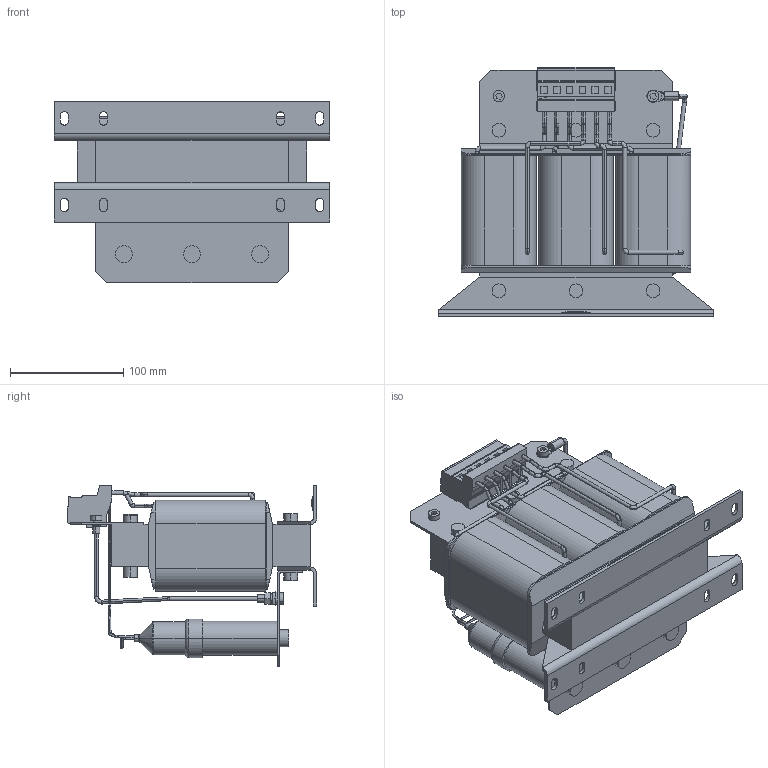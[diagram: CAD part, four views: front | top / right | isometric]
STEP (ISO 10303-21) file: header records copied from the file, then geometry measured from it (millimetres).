
FILE_DESCRIPTION (( 'STEP AP214' ), '1' );
FILE_NAME ('00Z1GX4-0015.STEP', '2023-03-21T10:50:23', ( '' ), ( '' ), 'SwSTEP 2.0', 'SolidWorks 2022', '' );
FILE_SCHEMA (( 'AUTOMOTIVE_DESIGN' ));
Length unit declared in the file: millimetre
Products named in the file (1): 00Z1GX4-0015
Bounding box: 243 x 220.2 x 159.95 mm (x, y, z)
Volume: 2496417.5 mm3; surface area: 287277.6 mm2
Topology: 1 solids, 1 shells, 717 faces, 1828 edges, 1154 vertices
Faces by surface type: plane 278, cylinder 275, torus 120, bspline 38, cone 6
Entity records: 25089 total; most frequent: CARTESIAN_POINT 7409, DIRECTION 3718, ORIENTED_EDGE 3632, EDGE_CURVE 1816, AXIS2_PLACEMENT_3D 1446, VERTEX_POINT 1148, LINE 826, VECTOR 826
